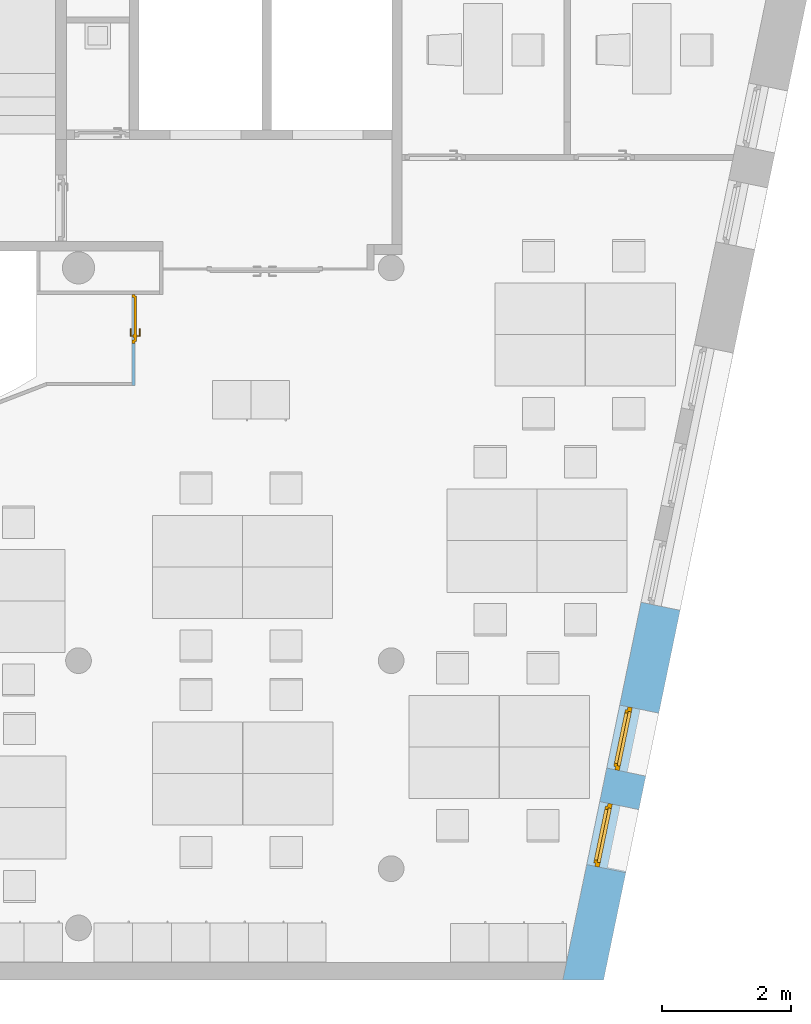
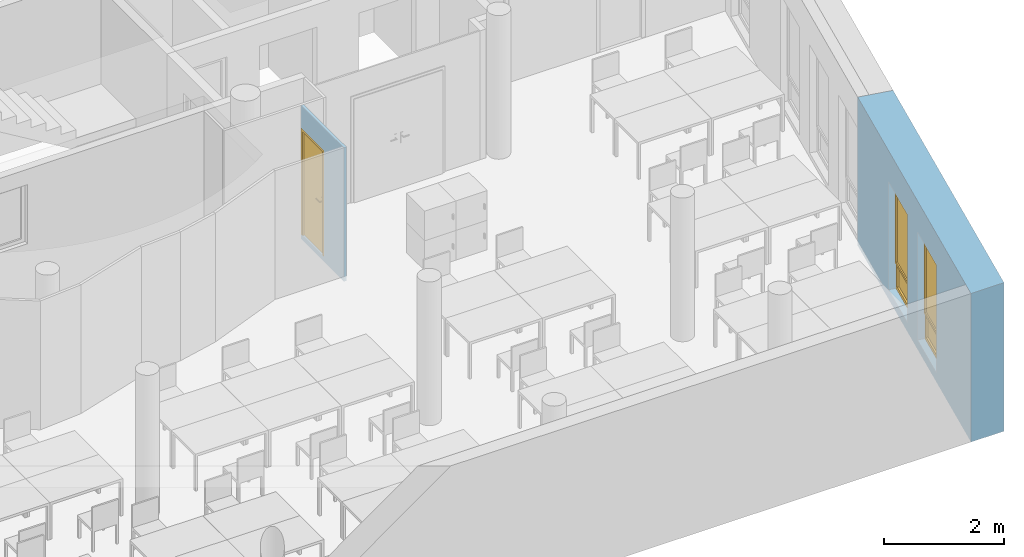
"""IFC4 building model written with IfcOpenShell, lengths in metres."""

from ifc_helpers import new_model, entity, si_unit, converted_unit, derived_unit, frame, frame_2d, origin, origin_with_axes, place, context, subcontext, project, spatial, polyline, rectangle, outline, extrude, closed_shell, open_shell, faceted_brep, surface_model, source, transform, mapped, material, layer, layer_set, layer_usage, type_object, element, fill, save


model = new_model("IFC4")

# Units and contexts
model_context = context("Model", 3, precision=1e-05, world=origin())
body_context = subcontext(model_context, "Body", "Model", "MODEL_VIEW")
ifc_project = project(units=[si_unit("LENGTHUNIT", "METRE"), si_unit("AREAUNIT", "SQUARE_METRE"), si_unit("VOLUMEUNIT", "CUBIC_METRE"), si_unit("MASSUNIT", "GRAM", prefix="KILO"), converted_unit("PLANEANGLEUNIT", "DEGREE", entity("IfcPlaneAngleMeasure", 0.0174532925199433), si_unit("PLANEANGLEUNIT", "RADIAN"), dimensions=[0, 0, 0, 0, 0, 0, 0]), derived_unit("THERMALTRANSMITTANCEUNIT", [(si_unit("POWERUNIT", "WATT"), 1), (si_unit("THERMODYNAMICTEMPERATUREUNIT", "KELVIN"), -1), (si_unit("LENGTHUNIT", "METRE"), -2)]), derived_unit("VOLUMETRICFLOWRATEUNIT", [(si_unit("LENGTHUNIT", "METRE"), 3), (converted_unit("TIMEUNIT", "hour", entity("IfcTimeMeasure", 3600.0), si_unit("TIMEUNIT", "SECOND"), dimensions=[0, 0, 1, 0, 0, 0, 0]), -1), (si_unit("LENGTHUNIT", "METRE"), -1)])], contexts=[model_context])

# Building, storeys
building_placement = place(None, origin())
building = spatial("IfcBuilding", under=ifc_project, at=building_placement, Name="HABITATGE PLURIFAMILIAR", CompositionType="ELEMENT")
storey_1_placement = place(building_placement, frame((0.0, 0.0, 18.29)))
storey_1 = spatial("IfcBuildingStorey", under=building, at=storey_1_placement, Name="PLANTA CINQUENA", CompositionType="ELEMENT", Elevation=18.29)
storey_2_placement = place(storey_1_placement, frame((0.0, 0.0, 15.28)))
storey_2 = spatial("IfcBuildingStorey", under=storey_1, at=storey_2_placement, Name="NOU", CompositionType="PARTIAL")

# Wall, opening, door
ifc_material_1 = material()
ifc_layer_1 = layer(ifc_material_1, 0.05)
ifc_layer_set_1 = layer_set([ifc_layer_1])
ifc_layer_usage_1 = layer_usage(ifc_layer_set_1, "AXIS2", "POSITIVE", 0.0)
wall_1_placement = place(storey_2_placement, frame((417.016984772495, 22.0694598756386, -15.38), z_axis=(0.0, 0.0, 1.0), x_axis=(0.0, 1.0, 0.0)))
wall_1 = element("IfcWall", 1, at=wall_1_placement, inside=storey_2, material=ifc_layer_usage_1, Name="Mampara P5", context=body_context, shape_type="SweptSolid", body=[
    extrude(rectangle(XDim=1.42, YDim=0.05, at=frame_2d((0.71, 0.025), x_axis=(1.0, 0.0))), origin_with_axes(), (0.0, 0.0, 1.0), 2.71),
])
opening_1_placement = place(wall_1_placement, frame((1.42, 0.05, 0.1), z_axis=(0.0, -1.0, 0.0), x_axis=(0.0, 0.0, 1.0)))
opening_1 = element("IfcOpeningElement", 2, at=opening_1_placement, cuts=wall_1, Name="Vano porta P5", ObjectType="Opening", context=body_context, shape_type="SweptSolid", body=[
    extrude(outline(polyline([(2.15, 0.763317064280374), (2.15, 0.0), (0.0, 0.0), (0.0, 0.763317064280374), (2.15, 0.763317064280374)])), origin_with_axes(), (0.0, 0.0, 1.0), 0.05),
])
shared_shape_1 = source(origin_with_axes(), body_context, "Body", "Brep", [
    faceted_brep([(0.763317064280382, 0.0499999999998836, 2.15), (0.713317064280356, 0.0499999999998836, 2.15), (0.713317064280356, 0.0499999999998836, 0.0), (0.763317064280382, 0.0499999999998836, 0.0), (0.763317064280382, 0.0, 0.0), (0.713317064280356, 0.0, 0.0), (0.713317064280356, 0.0, 2.15), (0.763317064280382, 0.0, 2.15)], [[[0, 1, 2, 3]], [[4, 5, 6, 7]], [[3, 4, 7, 0]], [[2, 5, 4, 3]], [[1, 6, 5, 2]], [[0, 7, 6, 1]]], orient=[[False], [False], [False], [False], [False], [False]]),
    faceted_brep([(0.0500000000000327, 0.0499999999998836, 2.15), (0.0, 0.0499999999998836, 2.15), (0.0, 0.0499999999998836, 0.0), (0.0500000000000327, 0.0499999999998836, 0.0), (0.0500000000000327, 0.0, 0.0), (0.0, 0.0, 0.0), (0.0, 0.0, 2.15), (0.0500000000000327, 0.0, 2.15)], [[[0, 1, 2, 3]], [[4, 5, 6, 7]], [[3, 4, 7, 0]], [[2, 5, 4, 3]], [[1, 6, 5, 2]], [[0, 7, 6, 1]]], orient=[[False], [False], [False], [False], [False], [False]]),
    faceted_brep([(0.713317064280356, 0.0499999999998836, 2.15), (0.0500000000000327, 0.0499999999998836, 2.15), (0.0500000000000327, 0.0499999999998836, 2.1), (0.713317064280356, 0.0499999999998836, 2.1), (0.713317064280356, 0.0, 2.1), (0.0500000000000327, 0.0, 2.1), (0.0500000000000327, 0.0, 2.15), (0.713317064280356, 0.0, 2.15)], [[[0, 1, 2, 3]], [[4, 5, 6, 7]], [[3, 4, 7, 0]], [[2, 5, 4, 3]], [[1, 6, 5, 2]], [[0, 7, 6, 1]]], orient=[[False], [False], [False], [False], [False], [False]]),
    faceted_brep([(0.733317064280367, 0.0699999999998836, 2.12), (0.0300000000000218, 0.0699999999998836, 2.12), (0.0300000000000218, 0.0699999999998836, 0.0), (0.733317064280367, 0.0699999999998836, 0.0), (0.733317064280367, 0.0299999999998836, 0.0), (0.0300000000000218, 0.0299999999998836, 0.0), (0.0300000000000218, 0.0299999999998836, 2.12), (0.733317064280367, 0.0299999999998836, 2.12)], [[[0, 1, 2, 3]], [[4, 5, 6, 7]], [[3, 4, 7, 0]], [[2, 5, 4, 3]], [[1, 6, 5, 2]], [[0, 7, 6, 1]]], orient=[[False], [False], [False], [False], [False], [False]]),
    faceted_brep([(0.673317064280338, 0.0299999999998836, 1.125), (0.623317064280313, 0.0299999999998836, 1.125), (0.623317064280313, 0.0299999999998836, 0.91), (0.673317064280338, 0.0299999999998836, 0.91), (0.673317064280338, 0.0199999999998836, 0.91), (0.623317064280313, 0.0199999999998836, 0.91), (0.623317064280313, 0.0199999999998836, 1.125), (0.673317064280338, 0.0199999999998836, 1.125)], [[[0, 1, 2, 3]], [[4, 5, 6, 7]], [[3, 4, 7, 0]], [[2, 5, 4, 3]], [[1, 6, 5, 2]], [[0, 7, 6, 1]]], orient=[[False], [False], [False], [False], [False], [False]]),
    faceted_brep([(0.648317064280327, 0.0199999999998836, 1.06), (0.643317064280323, 0.0199999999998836, 1.05866025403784), (0.639656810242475, 0.0199999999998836, 1.055), (0.63831706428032, 0.0199999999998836, 1.05), (0.639656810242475, 0.0199999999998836, 1.045), (0.643317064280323, 0.0199999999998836, 1.04133974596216), (0.648317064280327, 0.0199999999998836, 1.04), (0.653317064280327, 0.0199999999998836, 1.04133974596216), (0.656977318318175, 0.0199999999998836, 1.045), (0.658317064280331, 0.0199999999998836, 1.05), (0.656977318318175, 0.0199999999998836, 1.055), (0.653317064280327, 0.0199999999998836, 1.05866025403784), (0.653317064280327, -0.0250000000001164, 1.05866025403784), (0.648317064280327, -0.0200000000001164, 1.06), (0.656977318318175, -0.028660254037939, 1.055), (0.658317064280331, -0.0300000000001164, 1.05), (0.656977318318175, -0.028660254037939, 1.045), (0.653317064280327, -0.0250000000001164, 1.04133974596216), (0.648317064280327, -0.0200000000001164, 1.04), (0.643317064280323, -0.0150000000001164, 1.04133974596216), (0.639656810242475, -0.0113397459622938, 1.045), (0.63831706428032, -0.0100000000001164, 1.05), (0.639656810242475, -0.0113397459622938, 1.055), (0.643317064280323, -0.0150000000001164, 1.05866025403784), (0.533317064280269, -0.0200000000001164, 1.06), (0.533317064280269, -0.0250000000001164, 1.05866025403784), (0.533317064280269, -0.028660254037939, 1.055), (0.533317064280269, -0.0300000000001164, 1.05), (0.533317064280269, -0.028660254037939, 1.045), (0.533317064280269, -0.0250000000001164, 1.04133974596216), (0.533317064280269, -0.0200000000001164, 1.04), (0.533317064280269, -0.0150000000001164, 1.04133974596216), (0.533317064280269, -0.0113397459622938, 1.045), (0.533317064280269, -0.0100000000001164, 1.05), (0.533317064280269, -0.0113397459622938, 1.055), (0.533317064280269, -0.0150000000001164, 1.05866025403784)], [[[0, 1, 2, 3, 4, 5, 6, 7, 8, 9, 10, 11]], [[0, 11, 12, 13]], [[11, 10, 14, 12]], [[10, 9, 15, 14]], [[9, 8, 16, 15]], [[8, 7, 17, 16]], [[7, 6, 18, 17]], [[6, 5, 19, 18]], [[5, 4, 20, 19]], [[4, 3, 21, 20]], [[3, 2, 22, 21]], [[2, 1, 23, 22]], [[1, 0, 13, 23]], [[24, 25, 26, 27, 28, 29, 30, 31, 32, 33, 34, 35]], [[13, 12, 25, 24]], [[12, 14, 26, 25]], [[14, 15, 27, 26]], [[15, 16, 28, 27]], [[16, 17, 29, 28]], [[17, 18, 30, 29]], [[18, 19, 31, 30]], [[19, 20, 32, 31]], [[20, 21, 33, 32]], [[21, 22, 34, 33]], [[22, 23, 35, 34]], [[23, 13, 24, 35]]], orient=[[False], [False], [False], [False], [False], [False], [False], [False], [False], [False], [False], [False], [False], [False], [False], [False], [False], [False], [False], [False], [False], [False], [False], [False], [False], [False]]),
    faceted_brep([(0.673317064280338, 0.0699999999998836, 1.125), (0.673317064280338, 0.0699999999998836, 0.91), (0.623317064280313, 0.0699999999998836, 0.91), (0.623317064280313, 0.0699999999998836, 1.125), (0.673317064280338, 0.0799999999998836, 0.91), (0.673317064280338, 0.0799999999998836, 1.125), (0.623317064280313, 0.0799999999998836, 1.125), (0.623317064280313, 0.0799999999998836, 0.91)], [[[0, 1, 2, 3]], [[4, 5, 6, 7]], [[1, 0, 5, 4]], [[2, 1, 4, 7]], [[3, 2, 7, 6]], [[0, 3, 6, 5]]], orient=[[False], [False], [False], [False], [False], [False]]),
    faceted_brep([(0.648317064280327, 0.0799999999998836, 1.06), (0.653317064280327, 0.0799999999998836, 1.05866025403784), (0.656977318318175, 0.0799999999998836, 1.055), (0.658317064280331, 0.0799999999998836, 1.05), (0.656977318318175, 0.0799999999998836, 1.045), (0.653317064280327, 0.0799999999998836, 1.04133974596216), (0.648317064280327, 0.0799999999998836, 1.04), (0.643317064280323, 0.0799999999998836, 1.04133974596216), (0.639656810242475, 0.0799999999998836, 1.045), (0.63831706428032, 0.0799999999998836, 1.05), (0.639656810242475, 0.0799999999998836, 1.055), (0.643317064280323, 0.0799999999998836, 1.05866025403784), (0.648317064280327, 0.119999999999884, 1.06), (0.653317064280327, 0.124999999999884, 1.05866025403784), (0.656977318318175, 0.128660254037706, 1.055), (0.658317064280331, 0.129999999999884, 1.05), (0.656977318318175, 0.128660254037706, 1.045), (0.653317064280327, 0.124999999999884, 1.04133974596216), (0.648317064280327, 0.119999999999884, 1.04), (0.643317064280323, 0.114999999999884, 1.04133974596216), (0.639656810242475, 0.111339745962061, 1.045), (0.63831706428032, 0.109999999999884, 1.05), (0.639656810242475, 0.111339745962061, 1.055), (0.643317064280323, 0.114999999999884, 1.05866025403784), (0.533317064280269, 0.119999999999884, 1.06), (0.533317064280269, 0.114999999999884, 1.05866025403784), (0.533317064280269, 0.111339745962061, 1.055), (0.533317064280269, 0.109999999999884, 1.05), (0.533317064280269, 0.111339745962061, 1.045), (0.533317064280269, 0.114999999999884, 1.04133974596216), (0.533317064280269, 0.119999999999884, 1.04), (0.533317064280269, 0.124999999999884, 1.04133974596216), (0.533317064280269, 0.128660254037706, 1.045), (0.533317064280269, 0.129999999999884, 1.05), (0.533317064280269, 0.128660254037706, 1.055), (0.533317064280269, 0.124999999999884, 1.05866025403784)], [[[0, 1, 2, 3, 4, 5, 6, 7, 8, 9, 10, 11]], [[0, 12, 13, 1]], [[1, 13, 14, 2]], [[2, 14, 15, 3]], [[3, 15, 16, 4]], [[4, 16, 17, 5]], [[5, 17, 18, 6]], [[6, 18, 19, 7]], [[7, 19, 20, 8]], [[8, 20, 21, 9]], [[9, 21, 22, 10]], [[10, 22, 23, 11]], [[11, 23, 12, 0]], [[24, 25, 26, 27, 28, 29, 30, 31, 32, 33, 34, 35]], [[12, 24, 35, 13]], [[13, 35, 34, 14]], [[14, 34, 33, 15]], [[15, 33, 32, 16]], [[16, 32, 31, 17]], [[17, 31, 30, 18]], [[18, 30, 29, 19]], [[19, 29, 28, 20]], [[20, 28, 27, 21]], [[21, 27, 26, 22]], [[22, 26, 25, 23]], [[23, 25, 24, 12]]], orient=[[False], [False], [False], [False], [False], [False], [False], [False], [False], [False], [False], [False], [False], [False], [False], [False], [False], [False], [False], [False], [False], [False], [False], [False], [False], [False]]),
])
door_1_placement = place(opening_1_placement, frame((0.0, 0.0, 0.0), z_axis=(1.0, 0.0, 0.0), x_axis=(0.0, 1.0, 0.0)))
door_1 = element("IfcDoor", 3, at=door_1_placement, inside=storey_2, Name="Porta P5", OperationType="USERDEFINED", OverallHeight=2.15, OverallWidth=0.76332, PredefinedType="DOOR", context=body_context, shape_type="MappedRepresentation", body=[
    mapped(shared_shape_1, transform((0.0, 0.0, 0.0), x_axis=(1.0, 0.0, 0.0), y_axis=(0.0, 1.0, 0.0), z_axis=(0.0, 0.0, 1.0), scale=1.0)),
])
fill(opening_1, door_1)

# Wall, openings, doors
ifc_material_2 = material()
ifc_layer_2 = layer(ifc_material_2, 0.620000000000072)
ifc_layer_set_2 = layer_set([ifc_layer_2])
ifc_layer_usage_2 = layer_usage(ifc_layer_set_2, "AXIS2", "POSITIVE", 0.0)
wall_2_placement = place(storey_2_placement, frame((424.291440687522, 12.8406121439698, -15.38), z_axis=(0.0, 0.0, 1.0), x_axis=(0.202727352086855, 0.979235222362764, 0.0)))
wall_2 = element("IfcWall", 4, at=wall_2_placement, inside=storey_2, material=ifc_layer_usage_2, Name="Façana sur-est P5", context=body_context, shape_type="SweptSolid", body=[
    extrude(outline(polyline([(0.128356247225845, -0.620000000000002), (5.99096327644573, -0.620000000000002), (5.99096327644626, 0.0), (0.0, 0.0), (0.128356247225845, -0.620000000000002)])), frame((-0.128356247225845, 0.620000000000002, 0.0), z_axis=(0.0, 0.0, 1.0), x_axis=(1.0, 0.0, 0.0)), (0.0, 0.0, 1.0), 3.01),
])
opening_2_placement = place(wall_2_placement, frame((1.70184256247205, 0.0, 0.19), z_axis=(6.60117122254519e-15, 1.0, 0.0), x_axis=(0.0, 0.0, 1.0)))
opening_2 = element("IfcOpeningElement", 5, at=opening_2_placement, cuts=wall_2, Name="Vano finestra P5", ObjectType="Opening", context=body_context, shape_type="SweptSolid", body=[
    extrude(outline(polyline([(2.19, 1.00000000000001), (2.19, 0.0), (0.0, 0.0), (0.0, 1.00000000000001), (2.19, 1.00000000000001)])), origin_with_axes(), (0.0, 0.0, 1.0), 0.620000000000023),
])
opening_3_placement = place(wall_2_placement, frame((3.23329492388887, 0.0, 0.19), z_axis=(1.02684885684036e-14, 1.0, 0.0), x_axis=(0.0, 0.0, 1.0)))
opening_3 = element("IfcOpeningElement", 6, at=opening_3_placement, cuts=wall_2, Name="Vano finestra P5", ObjectType="Opening", context=body_context, shape_type="SweptSolid", body=[
    extrude(outline(polyline([(2.19, 0.998546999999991), (2.19, 0.0), (0.0, 0.0), (0.0, 0.998546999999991), (2.19, 0.998546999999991)])), origin_with_axes(), (0.0, 0.0, 1.0), 0.620000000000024),
])
door_type_1 = type_object("IfcDoorType", Name="Finestra P5", OperationType="NOTDEFINED", ParameterTakesPrecedence=False, PredefinedType="DOOR")
shared_shape_2 = source(origin_with_axes(), body_context, "Body", "SurfaceModel", [
    surface_model("IfcShellBasedSurfaceModel", [(0.0, 0.0700000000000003, 2.19), (0.0, 0.07, 0.0), (0.07, 0.07, 0.0), (0.07, 0.0700000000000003, 2.19), (0.0, 0.0, 0.0), (0.0, 0.0, 2.19), (0.07, 0.0, 2.19), (0.07, 0.0, 0.0)], [closed_shell([[[0, 1, 2, 3]], [[4, 5, 6, 7]], [[1, 0, 5, 4]], [[2, 1, 4, 7]], [[3, 2, 7, 6]], [[0, 3, 6, 5]]], orient=[[False], [False], [False], [False], [False], [False]])]),
    surface_model("IfcShellBasedSurfaceModel", [(0.929999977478, 0.0700000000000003, 2.19), (0.929999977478, 0.07, 0.0), (0.999999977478, 0.07, 0.0), (0.999999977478, 0.0700000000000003, 2.19), (0.929999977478, 0.0, 0.0), (0.929999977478, 0.0, 2.19), (0.999999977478, 0.0, 2.19), (0.999999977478, 0.0, 0.0)], [closed_shell([[[0, 1, 2, 3]], [[4, 5, 6, 7]], [[1, 0, 5, 4]], [[2, 1, 4, 7]], [[3, 2, 7, 6]], [[0, 3, 6, 5]]], orient=[[False], [False], [False], [False], [False], [False]])]),
    surface_model("IfcShellBasedSurfaceModel", [(0.07, 0.07, 0.07), (0.07, 0.07, 0.0), (0.929999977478, 0.07, 0.0), (0.929999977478, 0.07, 0.07), (0.07, 0.0, 0.0), (0.07, 0.0, 0.07), (0.929999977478, 0.0, 0.07), (0.929999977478, 0.0, 0.0)], [closed_shell([[[0, 1, 2, 3]], [[4, 5, 6, 7]], [[1, 0, 5, 4]], [[2, 1, 4, 7]], [[3, 2, 7, 6]], [[0, 3, 6, 5]]], orient=[[False], [False], [False], [False], [False], [False]])]),
    surface_model("IfcShellBasedSurfaceModel", [(0.07, 0.0700000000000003, 2.19), (0.07, 0.0700000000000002, 2.12), (0.929999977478, 0.0700000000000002, 2.12), (0.929999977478, 0.0700000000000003, 2.19), (0.07, 0.0, 2.12), (0.07, 0.0, 2.19), (0.929999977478, 0.0, 2.19), (0.929999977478, 0.0, 2.12)], [closed_shell([[[0, 1, 2, 3]], [[4, 5, 6, 7]], [[1, 0, 5, 4]], [[2, 1, 4, 7]], [[3, 2, 7, 6]], [[0, 3, 6, 5]]], orient=[[False], [False], [False], [False], [False], [False]])]),
    surface_model("IfcShellBasedSurfaceModel", [(0.07, 0.035, 0.07), (0.929999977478, 0.035, 0.07), (0.929999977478, 0.0350000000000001, 0.57), (0.07, 0.0350000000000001, 0.57)], [open_shell([[[0, 1, 2, 3]]], orient=[[False]])]),
    surface_model("IfcShellBasedSurfaceModel", [(0.05, 0.1, 2.14), (0.05, 0.1, 0.551), (0.1, 0.1, 0.551), (0.1, 0.1, 2.14), (0.05, 0.0500000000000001, 0.551), (0.05, 0.0500000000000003, 2.14), (0.1, 0.0500000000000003, 2.14), (0.1, 0.0500000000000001, 0.551)], [closed_shell([[[0, 1, 2, 3]], [[4, 5, 6, 7]], [[1, 0, 5, 4]], [[2, 1, 4, 7]], [[3, 2, 7, 6]], [[0, 3, 6, 5]]], orient=[[False], [False], [False], [False], [False], [False]])]),
    surface_model("IfcShellBasedSurfaceModel", [(0.899999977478, 0.1, 2.14), (0.899999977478, 0.1, 0.551), (0.949999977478, 0.1, 0.551), (0.949999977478, 0.1, 2.14), (0.899999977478, 0.0500000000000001, 0.551), (0.899999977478, 0.0500000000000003, 2.14), (0.949999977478, 0.0500000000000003, 2.14), (0.949999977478, 0.0500000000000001, 0.551)], [closed_shell([[[0, 1, 2, 3]], [[4, 5, 6, 7]], [[1, 0, 5, 4]], [[2, 1, 4, 7]], [[3, 2, 7, 6]], [[0, 3, 6, 5]]], orient=[[False], [False], [False], [False], [False], [False]])]),
    surface_model("IfcShellBasedSurfaceModel", [(0.1, 0.1, 0.601), (0.1, 0.1, 0.551), (0.899999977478, 0.1, 0.551), (0.899999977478, 0.1, 0.601), (0.1, 0.0500000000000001, 0.551), (0.1, 0.0500000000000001, 0.601), (0.899999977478, 0.0500000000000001, 0.601), (0.899999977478, 0.0500000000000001, 0.551)], [closed_shell([[[0, 1, 2, 3]], [[4, 5, 6, 7]], [[1, 0, 5, 4]], [[2, 1, 4, 7]], [[3, 2, 7, 6]], [[0, 3, 6, 5]]], orient=[[False], [False], [False], [False], [False], [False]])]),
    surface_model("IfcShellBasedSurfaceModel", [(0.1, 0.1, 2.14), (0.1, 0.1, 2.09), (0.899999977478, 0.1, 2.09), (0.899999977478, 0.1, 2.14), (0.1, 0.0500000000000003, 2.09), (0.1, 0.0500000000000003, 2.14), (0.899999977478, 0.0500000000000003, 2.14), (0.899999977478, 0.0500000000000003, 2.09)], [closed_shell([[[0, 1, 2, 3]], [[4, 5, 6, 7]], [[1, 0, 5, 4]], [[2, 1, 4, 7]], [[3, 2, 7, 6]], [[0, 3, 6, 5]]], orient=[[False], [False], [False], [False], [False], [False]])]),
    surface_model("IfcShellBasedSurfaceModel", [(0.1, 0.0750000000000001, 0.601), (0.899999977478, 0.0750000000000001, 0.601), (0.899999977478, 0.0750000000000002, 2.09), (0.1, 0.0750000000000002, 2.09)], [open_shell([[[0, 1, 2, 3]]], orient=[[False]])]),
])
door_2_placement = place(opening_2_placement, frame((0.0, 0.0, 0.419999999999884), z_axis=(1.0, 0.0, 0.0), x_axis=(0.0, 1.00000002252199, -3.60822483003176e-16)))
door_2 = element("IfcDoor", 7, at=door_2_placement, inside=storey_2, type_object=door_type_1, Name="Finestra P5", OverallHeight=2.19, OverallWidth=1.0, context=body_context, shape_type="MappedRepresentation", body=[
    mapped(shared_shape_2, transform((0.0, 0.0, 0.0), x_axis=(1.0, 0.0, 0.0), y_axis=(0.0, 1.0, 0.0), z_axis=(0.0, 0.0, 1.0), scale=1.00000002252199)),
])
fill(opening_2, door_2)
door_type_2 = type_object("IfcDoorType", Name="Finestra P5", OperationType="NOTDEFINED", ParameterTakesPrecedence=False, PredefinedType="DOOR")
shared_shape_3 = source(origin_with_axes(), body_context, "Body", "SurfaceModel", [
    surface_model("IfcShellBasedSurfaceModel", [(0.0, 0.0700000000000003, 2.19), (0.0, 0.07, 0.0), (0.07, 0.07, 0.0), (0.07, 0.0700000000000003, 2.19), (0.0, 0.0, 0.0), (0.0, 0.0, 2.19), (0.07, 0.0, 2.19), (0.07, 0.0, 0.0)], [closed_shell([[[0, 1, 2, 3]], [[4, 5, 6, 7]], [[1, 0, 5, 4]], [[2, 1, 4, 7]], [[3, 2, 7, 6]], [[0, 3, 6, 5]]], orient=[[False], [False], [False], [False], [False], [False]])]),
    surface_model("IfcShellBasedSurfaceModel", [(0.928546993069, 0.0700000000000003, 2.19), (0.928546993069, 0.07, 0.0), (0.998546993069, 0.07, 0.0), (0.998546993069, 0.0700000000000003, 2.19), (0.928546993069, 0.0, 0.0), (0.928546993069, 0.0, 2.19), (0.998546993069, 0.0, 2.19), (0.998546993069, 0.0, 0.0)], [closed_shell([[[0, 1, 2, 3]], [[4, 5, 6, 7]], [[1, 0, 5, 4]], [[2, 1, 4, 7]], [[3, 2, 7, 6]], [[0, 3, 6, 5]]], orient=[[False], [False], [False], [False], [False], [False]])]),
    surface_model("IfcShellBasedSurfaceModel", [(0.07, 0.07, 0.07), (0.07, 0.07, 0.0), (0.928546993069, 0.07, 0.0), (0.928546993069, 0.07, 0.07), (0.07, 0.0, 0.0), (0.07, 0.0, 0.07), (0.928546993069, 0.0, 0.07), (0.928546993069, 0.0, 0.0)], [closed_shell([[[0, 1, 2, 3]], [[4, 5, 6, 7]], [[1, 0, 5, 4]], [[2, 1, 4, 7]], [[3, 2, 7, 6]], [[0, 3, 6, 5]]], orient=[[False], [False], [False], [False], [False], [False]])]),
    surface_model("IfcShellBasedSurfaceModel", [(0.07, 0.0700000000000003, 2.19), (0.07, 0.0700000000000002, 2.12), (0.928546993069, 0.0700000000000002, 2.12), (0.928546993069, 0.0700000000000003, 2.19), (0.07, 0.0, 2.12), (0.07, 0.0, 2.19), (0.928546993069, 0.0, 2.19), (0.928546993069, 0.0, 2.12)], [closed_shell([[[0, 1, 2, 3]], [[4, 5, 6, 7]], [[1, 0, 5, 4]], [[2, 1, 4, 7]], [[3, 2, 7, 6]], [[0, 3, 6, 5]]], orient=[[False], [False], [False], [False], [False], [False]])]),
    surface_model("IfcShellBasedSurfaceModel", [(0.07, 0.035, 0.07), (0.928546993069, 0.035, 0.07), (0.928546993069, 0.0350000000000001, 0.57), (0.07, 0.0350000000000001, 0.57)], [open_shell([[[0, 1, 2, 3]]], orient=[[False]])]),
    surface_model("IfcShellBasedSurfaceModel", [(0.05, 0.1, 2.14), (0.05, 0.1, 0.551), (0.1, 0.1, 0.551), (0.1, 0.1, 2.14), (0.05, 0.0500000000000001, 0.551), (0.05, 0.0500000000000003, 2.14), (0.1, 0.0500000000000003, 2.14), (0.1, 0.0500000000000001, 0.551)], [closed_shell([[[0, 1, 2, 3]], [[4, 5, 6, 7]], [[1, 0, 5, 4]], [[2, 1, 4, 7]], [[3, 2, 7, 6]], [[0, 3, 6, 5]]], orient=[[False], [False], [False], [False], [False], [False]])]),
    surface_model("IfcShellBasedSurfaceModel", [(0.898546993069, 0.1, 2.14), (0.898546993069, 0.1, 0.551), (0.948546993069, 0.1, 0.551), (0.948546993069, 0.1, 2.14), (0.898546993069, 0.0500000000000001, 0.551), (0.898546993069, 0.0500000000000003, 2.14), (0.948546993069, 0.0500000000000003, 2.14), (0.948546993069, 0.0500000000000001, 0.551)], [closed_shell([[[0, 1, 2, 3]], [[4, 5, 6, 7]], [[1, 0, 5, 4]], [[2, 1, 4, 7]], [[3, 2, 7, 6]], [[0, 3, 6, 5]]], orient=[[False], [False], [False], [False], [False], [False]])]),
    surface_model("IfcShellBasedSurfaceModel", [(0.1, 0.1, 0.601), (0.1, 0.1, 0.551), (0.898546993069, 0.1, 0.551), (0.898546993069, 0.1, 0.601), (0.1, 0.0500000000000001, 0.551), (0.1, 0.0500000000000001, 0.601), (0.898546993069, 0.0500000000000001, 0.601), (0.898546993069, 0.0500000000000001, 0.551)], [closed_shell([[[0, 1, 2, 3]], [[4, 5, 6, 7]], [[1, 0, 5, 4]], [[2, 1, 4, 7]], [[3, 2, 7, 6]], [[0, 3, 6, 5]]], orient=[[False], [False], [False], [False], [False], [False]])]),
    surface_model("IfcShellBasedSurfaceModel", [(0.1, 0.1, 2.14), (0.1, 0.1, 2.09), (0.898546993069, 0.1, 2.09), (0.898546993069, 0.1, 2.14), (0.1, 0.0500000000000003, 2.09), (0.1, 0.0500000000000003, 2.14), (0.898546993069, 0.0500000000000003, 2.14), (0.898546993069, 0.0500000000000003, 2.09)], [closed_shell([[[0, 1, 2, 3]], [[4, 5, 6, 7]], [[1, 0, 5, 4]], [[2, 1, 4, 7]], [[3, 2, 7, 6]], [[0, 3, 6, 5]]], orient=[[False], [False], [False], [False], [False], [False]])]),
    surface_model("IfcShellBasedSurfaceModel", [(0.1, 0.0750000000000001, 0.601), (0.898546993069, 0.0750000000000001, 0.601), (0.898546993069, 0.0750000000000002, 2.09), (0.1, 0.0750000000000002, 2.09)], [open_shell([[[0, 1, 2, 3]]], orient=[[False]])]),
])
door_3_placement = place(opening_3_placement, frame((0.0, 0.0, 0.419999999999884), z_axis=(1.0, 0.0, 0.0), x_axis=(0.0, 1.00000000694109, 1.99840144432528e-15)))
door_3 = element("IfcDoor", 8, at=door_3_placement, inside=storey_2, type_object=door_type_2, Name="Finestra P5", OverallHeight=2.19, OverallWidth=0.99855, context=body_context, shape_type="MappedRepresentation", body=[
    mapped(shared_shape_3, transform((0.0, 0.0, 0.0), x_axis=(1.0, 0.0, 0.0), y_axis=(0.0, 1.0, 0.0), z_axis=(0.0, 0.0, 1.0), scale=1.00000000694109)),
])
fill(opening_3, door_3)

save(model, "model.ifc")
